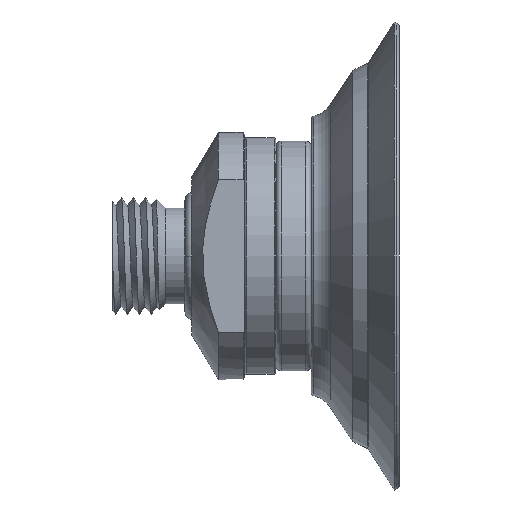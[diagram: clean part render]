
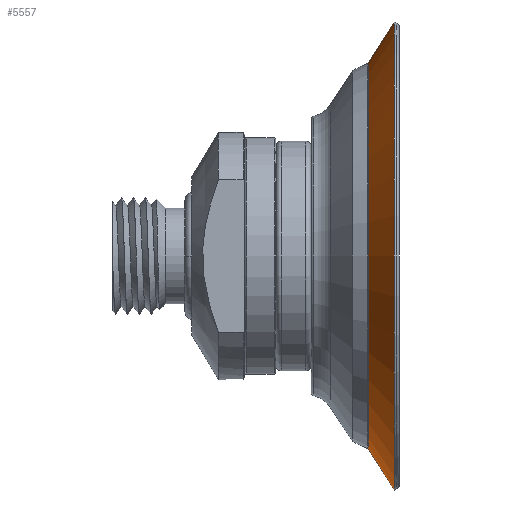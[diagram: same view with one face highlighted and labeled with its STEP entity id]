
A CAD part, left-side view. The second image highlights one B-rep face of the part: STEP entity #5557.
In plain terms, the highlighted conical face has half-angle 57.678 degrees and reference radius 26.5 mm.
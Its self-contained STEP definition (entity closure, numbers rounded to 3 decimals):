
#13 = DIRECTION ( 'NONE',  ( 0., -0.535, 0.845 ) ) ;
#79 = ORIENTED_EDGE ( 'NONE', *, *, #5136, .F. ) ;
#528 = EDGE_CURVE ( 'NONE', #6936, #3036, #2480, .T. ) ;
#789 = EDGE_CURVE ( 'NONE', #3036, #4788, #4581, .T. ) ;
#1096 = CIRCLE ( 'NONE', #3788, 21.894 ) ;
#1150 = LINE ( 'NONE', #3496, #4660 ) ;
#1171 = CARTESIAN_POINT ( 'NONE',  ( 0., -13.986, -21.894 ) ) ;
#1248 = DIRECTION ( 'NONE',  ( 0., 0., -1. ) ) ;
#1258 = DIRECTION ( 'NONE',  ( 0., -0.535, -0.845 ) ) ;
#1713 = AXIS2_PLACEMENT_3D ( 'NONE', #2439, #5360, #1248 ) ;
#2152 = EDGE_LOOP ( 'NONE', ( #79, #3408, #3705, #3368 ) ) ;
#2439 = CARTESIAN_POINT ( 'NONE',  ( 0., -16.9, 0. ) ) ;
#2480 = LINE ( 'NONE', #5432, #4312 ) ;
#3016 = FACE_OUTER_BOUND ( 'NONE', #2152, .T. ) ;
#3036 = VERTEX_POINT ( 'NONE', #4818 ) ;
#3368 = ORIENTED_EDGE ( 'NONE', *, *, #789, .T. ) ;
#3408 = ORIENTED_EDGE ( 'NONE', *, *, #5109, .F. ) ;
#3496 = CARTESIAN_POINT ( 'NONE',  ( 0., -16.9, 26.5 ) ) ;
#3705 = ORIENTED_EDGE ( 'NONE', *, *, #528, .T. ) ;
#3759 = CARTESIAN_POINT ( 'NONE',  ( 0., -16.9, 26.5 ) ) ;
#3788 = AXIS2_PLACEMENT_3D ( 'NONE', #4035, #5151, #4617 ) ;
#3996 = DIRECTION ( 'NONE',  ( 0., 0., 1. ) ) ;
#4035 = CARTESIAN_POINT ( 'NONE',  ( 0., -13.986, 0. ) ) ;
#4045 = CONICAL_SURFACE ( 'NONE', #1713, 26.5, 1.007 ) ;
#4077 = CARTESIAN_POINT ( 'NONE',  ( 0., -16.9, 0. ) ) ;
#4312 = VECTOR ( 'NONE', #1258, 1000. ) ;
#4581 = CIRCLE ( 'NONE', #6278, 26.5 ) ;
#4617 = DIRECTION ( 'NONE',  ( 0., 0., 1. ) ) ;
#4660 = VECTOR ( 'NONE', #13, 1000. ) ;
#4788 = VERTEX_POINT ( 'NONE', #3759 ) ;
#4818 = CARTESIAN_POINT ( 'NONE',  ( 0., -16.9, -26.5 ) ) ;
#5109 = EDGE_CURVE ( 'NONE', #6936, #5584, #1096, .T. ) ;
#5136 = EDGE_CURVE ( 'NONE', #5584, #4788, #1150, .T. ) ;
#5151 = DIRECTION ( 'NONE',  ( 0., 1., 0. ) ) ;
#5360 = DIRECTION ( 'NONE',  ( 0., -1., 0. ) ) ;
#5432 = CARTESIAN_POINT ( 'NONE',  ( 0., -16.9, -26.5 ) ) ;
#5557 = ADVANCED_FACE ( 'NONE', ( #3016 ), #4045, .T. ) ;
#5584 = VERTEX_POINT ( 'NONE', #7041 ) ;
#5759 = DIRECTION ( 'NONE',  ( 0., 1., 0. ) ) ;
#6278 = AXIS2_PLACEMENT_3D ( 'NONE', #4077, #5759, #3996 ) ;
#6936 = VERTEX_POINT ( 'NONE', #1171 ) ;
#7041 = CARTESIAN_POINT ( 'NONE',  ( 0., -13.986, 21.894 ) ) ;
